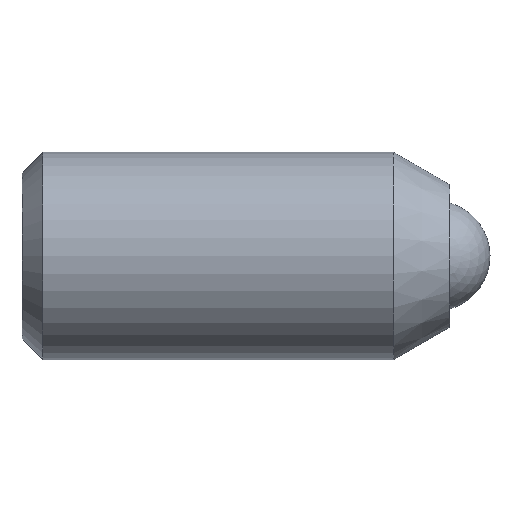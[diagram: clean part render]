
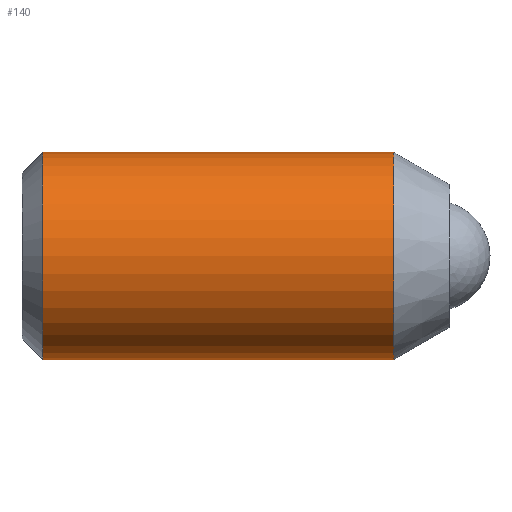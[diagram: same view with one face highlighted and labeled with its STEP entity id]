
A CAD part, top view. The second image highlights one B-rep face of the part: STEP entity #140.
In plain terms, the highlighted cylindrical face has radius 8 mm (diameter 16 mm), a partial arc.
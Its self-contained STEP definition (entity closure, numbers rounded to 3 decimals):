
#3 = VERTEX_POINT ( 'NONE', #413 ) ;
#33 = DIRECTION ( 'NONE',  ( 0., 1., 0. ) ) ;
#40 = VERTEX_POINT ( 'NONE', #83 ) ;
#57 = DIRECTION ( 'NONE',  ( 1., 0., 0. ) ) ;
#60 = ORIENTED_EDGE ( 'NONE', *, *, #383, .T. ) ;
#83 = CARTESIAN_POINT ( 'NONE',  ( -34.5, 8., 0. ) ) ;
#89 = EDGE_CURVE ( 'NONE', #3, #157, #380, .T. ) ;
#92 = CARTESIAN_POINT ( 'NONE',  ( -7.43, -8., 0. ) ) ;
#100 = LINE ( 'NONE', #599, #397 ) ;
#109 = ORIENTED_EDGE ( 'NONE', *, *, #464, .F. ) ;
#133 = DIRECTION ( 'NONE',  ( 1., 0., 0. ) ) ;
#140 = ADVANCED_FACE ( 'NONE', ( #480 ), #374, .T. ) ;
#157 = VERTEX_POINT ( 'NONE', #92 ) ;
#176 = VERTEX_POINT ( 'NONE', #534 ) ;
#213 = DIRECTION ( 'NONE',  ( 0., 1., 0. ) ) ;
#243 = AXIS2_PLACEMENT_3D ( 'NONE', #589, #341, #213 ) ;
#271 = CARTESIAN_POINT ( 'NONE',  ( 0., 0., 0. ) ) ;
#279 = CIRCLE ( 'NONE', #362, 8. ) ;
#284 = ORIENTED_EDGE ( 'NONE', *, *, #89, .T. ) ;
#328 = CARTESIAN_POINT ( 'NONE',  ( 0., -8., 0. ) ) ;
#341 = DIRECTION ( 'NONE',  ( 1., 0., 0. ) ) ;
#362 = AXIS2_PLACEMENT_3D ( 'NONE', #479, #133, #33 ) ;
#371 = DIRECTION ( 'NONE',  ( 1., 0., 0. ) ) ;
#374 = CYLINDRICAL_SURFACE ( 'NONE', #598, 8. ) ;
#380 = LINE ( 'NONE', #328, #516 ) ;
#383 = EDGE_CURVE ( 'NONE', #40, #3, #279, .T. ) ;
#397 = VECTOR ( 'NONE', #57, 1000. ) ;
#413 = CARTESIAN_POINT ( 'NONE',  ( -34.5, -8., 0. ) ) ;
#448 = EDGE_CURVE ( 'NONE', #176, #157, #657, .T. ) ;
#464 = EDGE_CURVE ( 'NONE', #40, #176, #100, .T. ) ;
#479 = CARTESIAN_POINT ( 'NONE',  ( -34.5, 0., 0. ) ) ;
#480 = FACE_OUTER_BOUND ( 'NONE', #584, .T. ) ;
#516 = VECTOR ( 'NONE', #371, 1000. ) ;
#534 = CARTESIAN_POINT ( 'NONE',  ( -7.43, 8., 0. ) ) ;
#584 = EDGE_LOOP ( 'NONE', ( #60, #284, #586, #109 ) ) ;
#586 = ORIENTED_EDGE ( 'NONE', *, *, #448, .F. ) ;
#589 = CARTESIAN_POINT ( 'NONE',  ( -7.43, 0., 0. ) ) ;
#598 = AXIS2_PLACEMENT_3D ( 'NONE', #271, #702, #641 ) ;
#599 = CARTESIAN_POINT ( 'NONE',  ( 0., 8., 0. ) ) ;
#641 = DIRECTION ( 'NONE',  ( 0., 1., 0. ) ) ;
#657 = CIRCLE ( 'NONE', #243, 8. ) ;
#702 = DIRECTION ( 'NONE',  ( 1., 0., 0. ) ) ;
